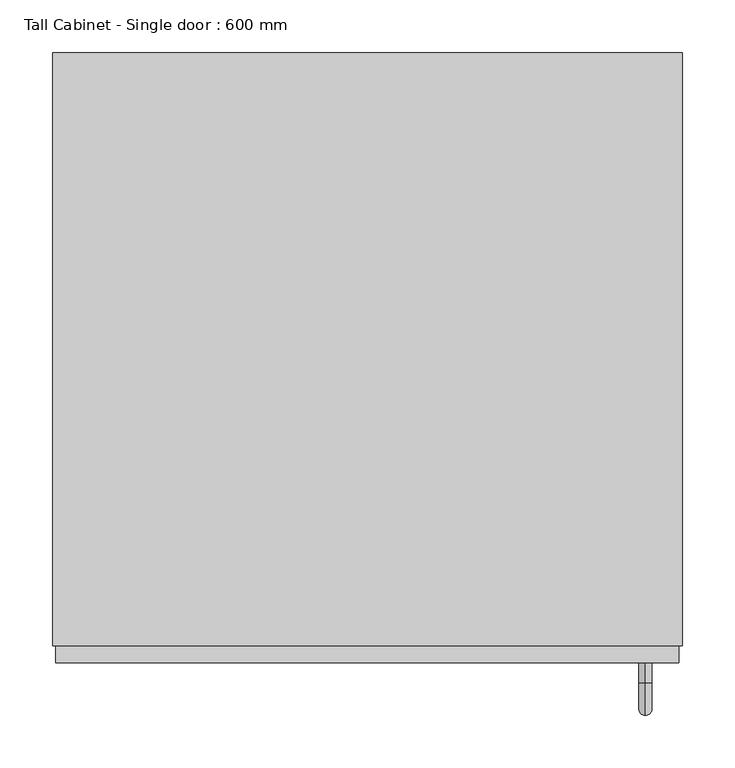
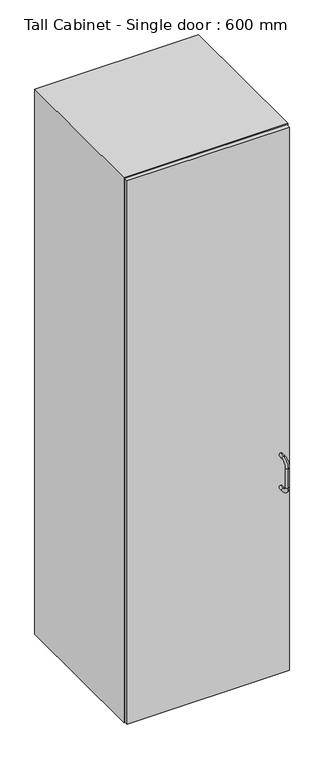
"""IFC4 building model written with IfcOpenShell, lengths in millimetres: furniture geometry, Tall Cabinet - Single door : 600 mm."""

from ifc_helpers import new_model, si_unit, point, frame, origin, place, context, project, spatial, polyline, circle_curve, ellipse_curve, trimmed, outline, extrude, source, transform, mapped, element, save
from ifc_brep_helpers import plane_surface, cylinder_surface, revolved_surface, advanced_brep


def tall_cabinet_single_door_600_mm_6a825e10(model_context):
    return source(origin(), model_context, "Body", "SolidModel", [
        extrude(outline(polyline([(341.7003264, -581.0), (-252.2996736, -581.0), (-252.2996736, -565.0), (341.7003264, -565.0), (341.7003264, -581.0)])), frame((0.0, 0.0, 167.0), z_axis=(0.0, 0.0, 1.0), x_axis=(1.0, 0.0, 0.0)), (0.0, 0.0, 1.0), 2102.0),
        advanced_brep(
        [(309.7003264, -581.0, 1020.25), (309.7003264, -581.0, 1007.75), (309.7003264, -599.75, 1020.25), (309.7003264, -599.75, 1007.75), (309.7003264, -618.5, 989.0), (309.7003264, -631.0, 989.0), (309.7003264, -631.0, 914.0), (309.7003264, -618.5, 914.0), (309.7003264, -599.75, 895.25), (309.7003264, -599.75, 882.75), (309.7003264, -581.0, 882.75), (309.7003264, -581.0, 895.25)],
        [
            (0, 1, circle_curve(frame((309.7003264, -581.0, 1014.0), z_axis=(0.0, 1.0, 0.0), x_axis=(0.0, 0.0, -1.0)), 6.25)),
            (1, 0, circle_curve(frame((309.7003264, -581.0, 1014.0), z_axis=(0.0, 1.0, 0.0), x_axis=(0.0, 0.0, -1.0)), 6.25)),
            (0, 2),
            (2, 3, circle_curve(frame((309.7003264, -599.75, 1014.0), z_axis=(0.0, 1.0, 0.0), x_axis=(0.0, 0.0, -1.0)), 6.25)),
            (3, 1),
            (3, 2, circle_curve(frame((309.7003264, -599.75, 1014.0), z_axis=(0.0, 1.0, 0.0), x_axis=(0.0, 0.0, -1.0)), 6.25)),
            (4, 3, circle_curve(frame((309.7003264, -599.75, 989.0), z_axis=(-1.0, 0.0, 0.0), x_axis=(0.0, 0.0, 1.0)), 18.75)),
            (2, 5, circle_curve(frame((309.7003264, -599.75, 989.0), z_axis=(1.0, 0.0, 0.0), x_axis=(0.0, 0.0, 1.0)), 31.25)),
            (5, 4, circle_curve(frame((309.7003264, -624.75, 989.0), z_axis=(0.0, 0.0, 1.0), x_axis=(0.0, 1.0, 0.0)), 6.25)),
            (4, 5, circle_curve(frame((309.7003264, -624.75, 989.0), z_axis=(0.0, 0.0, 1.0), x_axis=(0.0, 1.0, 0.0)), 6.25)),
            (5, 6),
            (6, 7, circle_curve(frame((309.7003264, -624.75, 914.0), z_axis=(0.0, 0.0, 1.0), x_axis=(0.0, 1.0, 0.0)), 6.25)),
            (7, 4),
            (7, 6, circle_curve(frame((309.7003264, -624.75, 914.0), z_axis=(0.0, 0.0, 1.0), x_axis=(0.0, 1.0, 0.0)), 6.25)),
            (8, 7, circle_curve(frame((309.7003264, -599.75, 914.0), z_axis=(-1.0, 0.0, 0.0), x_axis=(0.0, -1.0, 0.0)), 18.75)),
            (6, 9, circle_curve(frame((309.7003264, -599.75, 914.0), z_axis=(1.0, 0.0, 0.0), x_axis=(0.0, -1.0, 0.0)), 31.25)),
            (9, 8, circle_curve(frame((309.7003264, -599.75, 889.0), z_axis=(0.0, -1.0, 0.0), x_axis=(0.0, 0.0, 1.0)), 6.25)),
            (8, 9, circle_curve(frame((309.7003264, -599.75, 889.0), z_axis=(0.0, -1.0, 0.0), x_axis=(0.0, 0.0, 1.0)), 6.25)),
            (10, 11, circle_curve(frame((309.7003264, -581.0, 889.0), z_axis=(0.0, 1.0, 0.0), x_axis=(0.0, 0.0, 1.0)), 6.25)),
            (11, 10, circle_curve(frame((309.7003264, -581.0, 889.0), z_axis=(0.0, 1.0, 0.0), x_axis=(0.0, 0.0, 1.0)), 6.25)),
            (9, 10),
            (11, 8),
        ],
        [
            plane_surface(frame((309.7003264, -581.0, 1014.0), z_axis=(0.0, 1.0, 0.0), x_axis=(1.0, 0.0, 0.0))),
            cylinder_surface(frame((309.7003264, -581.0, 1014.0), z_axis=(0.0, 1.0, 0.0), x_axis=(0.0, 0.0, -1.0)), 6.25),
            revolved_surface(trimmed(ellipse_curve(frame((309.7003264, -599.75, 1014.0), z_axis=(0.0, 1.0, 0.0), x_axis=(0.0, 0.0, -1.0)), 6.25, 6.25), [point((309.7003264, -599.75, 1020.25))], [point((309.7003264, -599.75, 1007.75))], True, "CARTESIAN"), (309.7003264, -599.75, 989.0), (1.0, 0.0, 0.0)),
            revolved_surface(trimmed(ellipse_curve(frame((309.7003264, -599.75, 1014.0), z_axis=(0.0, 1.0, 0.0), x_axis=(0.0, 0.0, -1.0)), 6.25, 6.25), [point((309.7003264, -599.75, 1007.75))], [point((309.7003264, -599.75, 1020.25))], True, "CARTESIAN"), (309.7003264, -599.75, 989.0), (1.0, 0.0, 0.0)),
            cylinder_surface(frame((309.7003264, -624.75, 989.0), z_axis=(0.0, 0.0, 1.0), x_axis=(0.0, 1.0, 0.0)), 6.25),
            revolved_surface(trimmed(ellipse_curve(frame((309.7003264, -624.75, 914.0), z_axis=(0.0, 0.0, 1.0), x_axis=(0.0, 1.0, 0.0)), 6.25, 6.25), [point((309.7003264, -631.0, 914.0))], [point((309.7003264, -618.5, 914.0))], True, "CARTESIAN"), (309.7003264, -599.75, 914.0), (1.0, 0.0, 0.0)),
            revolved_surface(trimmed(ellipse_curve(frame((309.7003264, -624.75, 914.0), z_axis=(0.0, 0.0, 1.0), x_axis=(0.0, 1.0, 0.0)), 6.25, 6.25), [point((309.7003264, -618.5, 914.0))], [point((309.7003264, -631.0, 914.0))], True, "CARTESIAN"), (309.7003264, -599.75, 914.0), (1.0, 0.0, 0.0)),
            plane_surface(frame((309.7003264, -581.0, 889.0), z_axis=(0.0, 1.0, 0.0), x_axis=(1.0, 0.0, 0.0))),
            cylinder_surface(frame((309.7003264, -599.75, 889.0), z_axis=(0.0, -1.0, 0.0), x_axis=(0.0, 0.0, 1.0)), 6.25),
        ],
        [
            (0, [[1, 2]]),
            (1, [[-1, 3, 4, 5]]),
            (1, [[-2, -5, 6, -3]]),
            (2, [[7, -4, 8, 9]]),
            (3, [[-8, -6, -7, 10]]),
            (4, [[-9, 11, 12, 13]]),
            (4, [[-10, -13, 14, -11]]),
            (5, [[15, -12, 16, 17]]),
            (6, [[-16, -14, -15, 18]]),
            (7, [[19, 20]]),
            (8, [[-17, 21, -20, 22]]),
            (8, [[-18, -22, -19, -21]]),
        ],
    ),
        extrude(outline(polyline([(328.7003264, -16.0), (-239.2996736, -16.0), (-239.2996736, -10.0), (328.7003264, -10.0), (328.7003264, -16.0)])), frame((0.0, 0.0, 180.0), z_axis=(0.0, 0.0, 1.0), x_axis=(1.0, 0.0, 0.0)), (0.0, 0.0, 1.0), 2076.0),
        extrude(outline(polyline([(2272.0, 344.7003264), (2272.0, -255.2996736), (164.0, -255.2996736), (164.0, 344.7003264), (2272.0, 344.7003264)]), holes=[polyline([(2256.0, 328.7003264), (180.0, 328.7003264), (180.0, -239.2996736), (2256.0, -239.2996736), (2256.0, 328.7003264)])]), frame((0.0, -565.0, 0.0), z_axis=(0.0, 1.0, 0.0), x_axis=(0.0, 0.0, 1.0)), (0.0, 0.0, 1.0), 565.0),
    ])


if __name__ == "__main__":
    model = new_model("IFC4")
    model_context = context("Model", 3, world=origin())
    ifc_project = project(units=[si_unit("LENGTHUNIT", "METRE", prefix="MILLI")], contexts=[model_context])
    site = spatial("IfcSite", under=ifc_project)
    building = spatial("IfcBuilding", under=site)
    placement = place(None, origin())
    tall_cabinet_single_door_600_mm_shape = tall_cabinet_single_door_600_mm_6a825e10(model_context)
    element("IfcFurniture", 1, ObjectType="Tall Cabinet - Single door : 600 mm", at=placement, inside=building, context=model_context, shape_type="MappedRepresentation", body=[
        mapped(tall_cabinet_single_door_600_mm_shape, transform((0.0, 0.0, 0.0), x_axis=(1.0, 0.0, 0.0), y_axis=(0.0, 1.0, 0.0), z_axis=(0.0, 0.0, 1.0))),
    ])
    save(model, "model.ifc")
